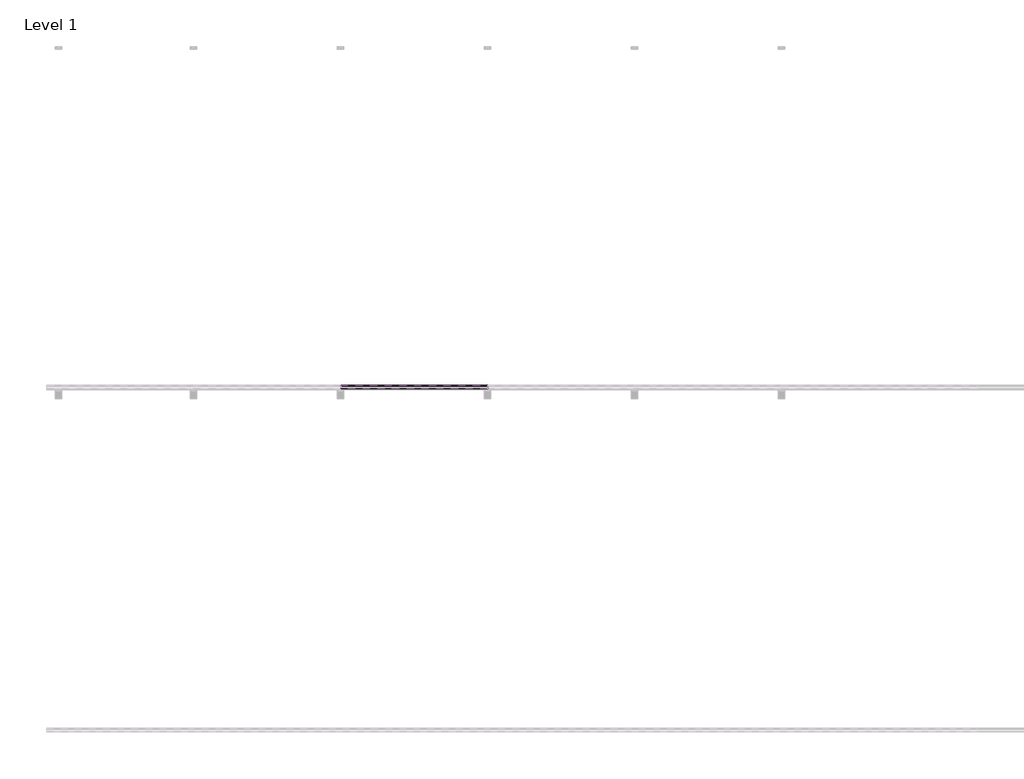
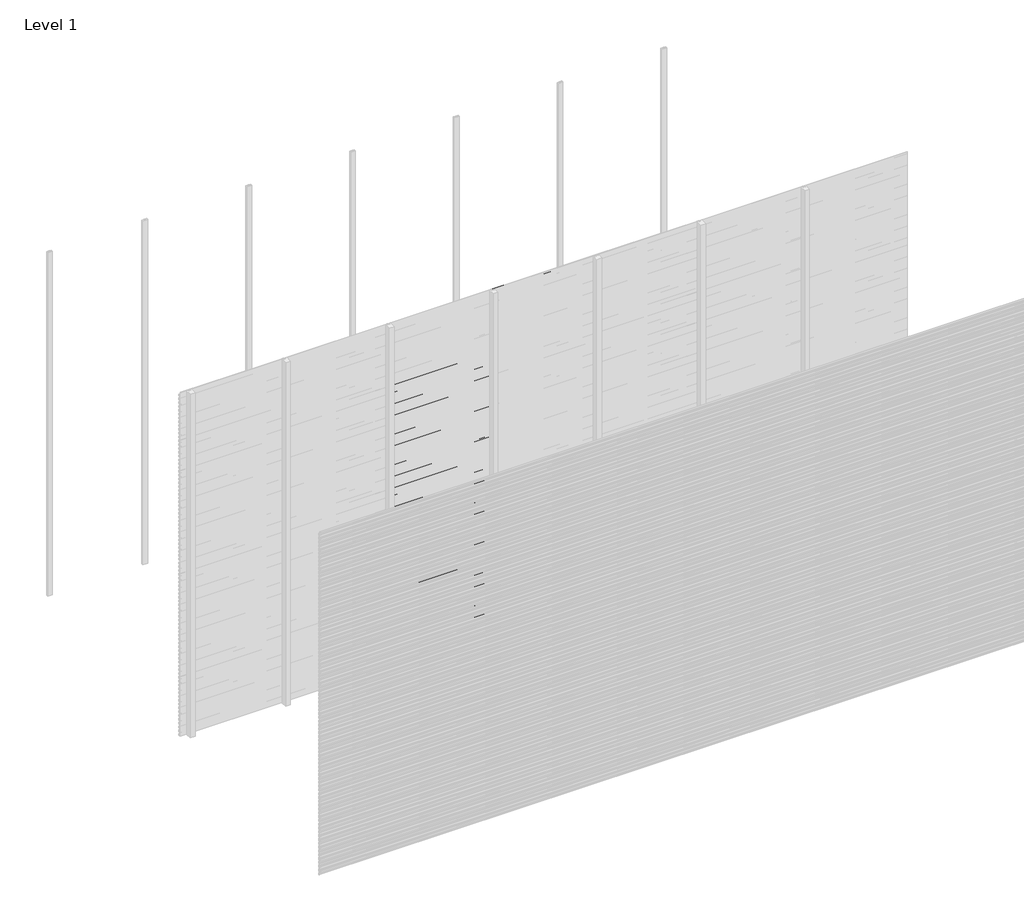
# One storey, part 45 of 96: 77 proxies.
"""IFC4 building model written with IfcOpenShell, lengths in millimetres."""

from ifc_helpers import new_model, si_unit, frame, origin, place, context, project, spatial, polyline, outline, extrude, element, save

model = new_model("IFC4")

# Units and contexts
model_context = context("Model", 3, world=origin())
ifc_project = project(units=[si_unit("LENGTHUNIT", "METRE", prefix="MILLI")], contexts=[model_context])

# Site, building, storey
site = spatial("IfcSite", under=ifc_project)
building = spatial("IfcBuilding", under=site)
storey = spatial("IfcBuildingStorey", under=building, Name="Level 1", Elevation=0.0)

# Proxies
placement = place(None, origin())
element("IfcBuildingElementProxy", 1, Name="Wall Sweeps", at=placement, inside=storey, context=model_context, shape_type="SweptSolid", body=[
    extrude(outline(polyline([(-29977.6, 2505.5655033), (-29977.6, 2491.2779188), (-29982.4114965, 2488.5), (-29982.4114965, 2489.7701706), (-29978.85, 2491.8264016), (-29978.85, 2504.8437382), (-29998.0, 2515.9000799), (-29998.0, 2530.8), (-29996.75, 2530.8), (-29996.75, 2516.6217609), (-29977.6, 2505.5655033)])), frame((1714.2857143, 0.0, 0.0), z_axis=(1.0, 0.0, 0.0), x_axis=(0.0, 1.0, 0.0)), (0.0, 0.0, 1.0), 857.1428571),
])
element("IfcBuildingElementProxy", 2, Name="Wall Sweeps", at=placement, inside=storey, context=model_context, shape_type="SweptSolid", body=[
    extrude(outline(polyline([(-29977.6, 2472.2655033), (-29977.6, 2457.9779188), (-29982.4114965, 2455.2), (-29982.4114965, 2456.4701706), (-29978.85, 2458.5264016), (-29978.85, 2471.5437382), (-29998.0, 2482.6000799), (-29998.0, 2497.5), (-29996.75, 2497.5), (-29996.75, 2483.3217609), (-29977.6, 2472.2655033)])), frame((1714.2857143, 0.0, 0.0), z_axis=(1.0, 0.0, 0.0), x_axis=(0.0, 1.0, 0.0)), (0.0, 0.0, 1.0), 857.1428571),
])
element("IfcBuildingElementProxy", 3, Name="Wall Sweeps", at=placement, inside=storey, context=model_context, shape_type="SweptSolid", body=[
    extrude(outline(polyline([(-29977.6, 2438.9655033), (-29977.6, 2424.6779188), (-29982.4114965, 2421.9), (-29982.4114965, 2423.1701706), (-29978.85, 2425.2264016), (-29978.85, 2438.2437382), (-29998.0, 2449.3000799), (-29998.0, 2464.2), (-29996.75, 2464.2), (-29996.75, 2450.0217609), (-29977.6, 2438.9655033)])), frame((1714.2857143, 0.0, 0.0), z_axis=(1.0, 0.0, 0.0), x_axis=(0.0, 1.0, 0.0)), (0.0, 0.0, 1.0), 857.1428571),
])
element("IfcBuildingElementProxy", 4, Name="Wall Sweeps", at=placement, inside=storey, context=model_context, shape_type="SweptSolid", body=[
    extrude(outline(polyline([(-29977.6, 2405.6655033), (-29977.6, 2391.3779188), (-29982.4114965, 2388.6), (-29982.4114965, 2389.8701706), (-29978.85, 2391.9264016), (-29978.85, 2404.9437382), (-29998.0, 2416.0000799), (-29998.0, 2430.9), (-29996.75, 2430.9), (-29996.75, 2416.7217609), (-29977.6, 2405.6655033)])), frame((1714.2857143, 0.0, 0.0), z_axis=(1.0, 0.0, 0.0), x_axis=(0.0, 1.0, 0.0)), (0.0, 0.0, 1.0), 857.1428571),
])
element("IfcBuildingElementProxy", 5, Name="Wall Sweeps", at=placement, inside=storey, context=model_context, shape_type="SweptSolid", body=[
    extrude(outline(polyline([(-29977.6, 2372.3655033), (-29977.6, 2358.0779188), (-29982.4114965, 2355.3), (-29982.4114965, 2356.5701706), (-29978.85, 2358.6264016), (-29978.85, 2371.6437382), (-29998.0, 2382.7000799), (-29998.0, 2397.6), (-29996.75, 2397.6), (-29996.75, 2383.4217609), (-29977.6, 2372.3655033)])), frame((1714.2857143, 0.0, 0.0), z_axis=(1.0, 0.0, 0.0), x_axis=(0.0, 1.0, 0.0)), (0.0, 0.0, 1.0), 857.1428571),
])
element("IfcBuildingElementProxy", 6, Name="Wall Sweeps", at=placement, inside=storey, context=model_context, shape_type="SweptSolid", body=[
    extrude(outline(polyline([(-29977.6, 2339.0655033), (-29977.6, 2324.7779188), (-29982.4114965, 2322.0), (-29982.4114965, 2323.2701706), (-29978.85, 2325.3264016), (-29978.85, 2338.3437382), (-29998.0, 2349.4000799), (-29998.0, 2364.3), (-29996.75, 2364.3), (-29996.75, 2350.1217609), (-29977.6, 2339.0655033)])), frame((1714.2857143, 0.0, 0.0), z_axis=(1.0, 0.0, 0.0), x_axis=(0.0, 1.0, 0.0)), (0.0, 0.0, 1.0), 857.1428571),
])
element("IfcBuildingElementProxy", 7, Name="Wall Sweeps", at=placement, inside=storey, context=model_context, shape_type="SweptSolid", body=[
    extrude(outline(polyline([(-29977.6, 2305.7655033), (-29977.6, 2291.4779188), (-29982.4114965, 2288.7), (-29982.4114965, 2289.9701706), (-29978.85, 2292.0264016), (-29978.85, 2305.0437382), (-29998.0, 2316.1000799), (-29998.0, 2331.0), (-29996.75, 2331.0), (-29996.75, 2316.8217609), (-29977.6, 2305.7655033)])), frame((1714.2857143, 0.0, 0.0), z_axis=(1.0, 0.0, 0.0), x_axis=(0.0, 1.0, 0.0)), (0.0, 0.0, 1.0), 857.1428571),
])
element("IfcBuildingElementProxy", 8, Name="Wall Sweeps", at=placement, inside=storey, context=model_context, shape_type="SweptSolid", body=[
    extrude(outline(polyline([(-29977.6, 2272.4655033), (-29977.6, 2258.1779188), (-29982.4114965, 2255.4), (-29982.4114965, 2256.6701706), (-29978.85, 2258.7264016), (-29978.85, 2271.7437382), (-29998.0, 2282.8000799), (-29998.0, 2297.7), (-29996.75, 2297.7), (-29996.75, 2283.5217609), (-29977.6, 2272.4655033)])), frame((1714.2857143, 0.0, 0.0), z_axis=(1.0, 0.0, 0.0), x_axis=(0.0, 1.0, 0.0)), (0.0, 0.0, 1.0), 857.1428571),
])
element("IfcBuildingElementProxy", 9, Name="Wall Sweeps", at=placement, inside=storey, context=model_context, shape_type="SweptSolid", body=[
    extrude(outline(polyline([(-29977.6, 2239.1655033), (-29977.6, 2224.8779188), (-29982.4114965, 2222.1), (-29982.4114965, 2223.3701706), (-29978.85, 2225.4264016), (-29978.85, 2238.4437382), (-29998.0, 2249.5000799), (-29998.0, 2264.4), (-29996.75, 2264.4), (-29996.75, 2250.2217609), (-29977.6, 2239.1655033)])), frame((1714.2857143, 0.0, 0.0), z_axis=(1.0, 0.0, 0.0), x_axis=(0.0, 1.0, 0.0)), (0.0, 0.0, 1.0), 857.1428571),
])
element("IfcBuildingElementProxy", 10, Name="Wall Sweeps", at=placement, inside=storey, context=model_context, shape_type="SweptSolid", body=[
    extrude(outline(polyline([(-29977.6, 2205.8655033), (-29977.6, 2191.5779188), (-29982.4114965, 2188.8), (-29982.4114965, 2190.0701706), (-29978.85, 2192.1264016), (-29978.85, 2205.1437382), (-29998.0, 2216.2000799), (-29998.0, 2231.1), (-29996.75, 2231.1), (-29996.75, 2216.9217609), (-29977.6, 2205.8655033)])), frame((1714.2857143, 0.0, 0.0), z_axis=(1.0, 0.0, 0.0), x_axis=(0.0, 1.0, 0.0)), (0.0, 0.0, 1.0), 857.1428571),
])
element("IfcBuildingElementProxy", 11, Name="Wall Sweeps", at=placement, inside=storey, context=model_context, shape_type="SweptSolid", body=[
    extrude(outline(polyline([(-29977.6, 2172.5655033), (-29977.6, 2158.2779188), (-29982.4114965, 2155.5), (-29982.4114965, 2156.7701706), (-29978.85, 2158.8264016), (-29978.85, 2171.8437382), (-29998.0, 2182.9000799), (-29998.0, 2197.8), (-29996.75, 2197.8), (-29996.75, 2183.6217609), (-29977.6, 2172.5655033)])), frame((1714.2857143, 0.0, 0.0), z_axis=(1.0, 0.0, 0.0), x_axis=(0.0, 1.0, 0.0)), (0.0, 0.0, 1.0), 857.1428571),
])
element("IfcBuildingElementProxy", 12, Name="Wall Sweeps", at=placement, inside=storey, context=model_context, shape_type="SweptSolid", body=[
    extrude(outline(polyline([(-29977.6, 2139.2655033), (-29977.6, 2124.9779188), (-29982.4114965, 2122.2), (-29982.4114965, 2123.4701706), (-29978.85, 2125.5264016), (-29978.85, 2138.5437382), (-29998.0, 2149.6000799), (-29998.0, 2164.5), (-29996.75, 2164.5), (-29996.75, 2150.3217609), (-29977.6, 2139.2655033)])), frame((1714.2857143, 0.0, 0.0), z_axis=(1.0, 0.0, 0.0), x_axis=(0.0, 1.0, 0.0)), (0.0, 0.0, 1.0), 857.1428571),
])
element("IfcBuildingElementProxy", 13, Name="Wall Sweeps", at=placement, inside=storey, context=model_context, shape_type="SweptSolid", body=[
    extrude(outline(polyline([(-29977.6, 2105.9655033), (-29977.6, 2091.6779188), (-29982.4114965, 2088.9), (-29982.4114965, 2090.1701706), (-29978.85, 2092.2264016), (-29978.85, 2105.2437382), (-29998.0, 2116.3000799), (-29998.0, 2131.2), (-29996.75, 2131.2), (-29996.75, 2117.0217609), (-29977.6, 2105.9655033)])), frame((1714.2857143, 0.0, 0.0), z_axis=(1.0, 0.0, 0.0), x_axis=(0.0, 1.0, 0.0)), (0.0, 0.0, 1.0), 857.1428571),
])
element("IfcBuildingElementProxy", 14, Name="Wall Sweeps", at=placement, inside=storey, context=model_context, shape_type="SweptSolid", body=[
    extrude(outline(polyline([(-29977.6, 2072.6655033), (-29977.6, 2058.3779188), (-29982.4114965, 2055.6), (-29982.4114965, 2056.8701706), (-29978.85, 2058.9264016), (-29978.85, 2071.9437382), (-29998.0, 2083.0000799), (-29998.0, 2097.9), (-29996.75, 2097.9), (-29996.75, 2083.7217609), (-29977.6, 2072.6655033)])), frame((1714.2857143, 0.0, 0.0), z_axis=(1.0, 0.0, 0.0), x_axis=(0.0, 1.0, 0.0)), (0.0, 0.0, 1.0), 857.1428571),
])
element("IfcBuildingElementProxy", 15, Name="Wall Sweeps", at=placement, inside=storey, context=model_context, shape_type="SweptSolid", body=[
    extrude(outline(polyline([(-29977.6, 2039.3655033), (-29977.6, 2025.0779188), (-29982.4114965, 2022.3), (-29982.4114965, 2023.5701706), (-29978.85, 2025.6264016), (-29978.85, 2038.6437382), (-29998.0, 2049.7000799), (-29998.0, 2064.6), (-29996.75, 2064.6), (-29996.75, 2050.4217609), (-29977.6, 2039.3655033)])), frame((1714.2857143, 0.0, 0.0), z_axis=(1.0, 0.0, 0.0), x_axis=(0.0, 1.0, 0.0)), (0.0, 0.0, 1.0), 857.1428571),
])
element("IfcBuildingElementProxy", 16, Name="Wall Sweeps", at=placement, inside=storey, context=model_context, shape_type="SweptSolid", body=[
    extrude(outline(polyline([(-29977.6, 2006.0655033), (-29977.6, 1991.7779188), (-29982.4114965, 1989.0), (-29982.4114965, 1990.2701706), (-29978.85, 1992.3264016), (-29978.85, 2005.3437382), (-29998.0, 2016.4000799), (-29998.0, 2031.3), (-29996.75, 2031.3), (-29996.75, 2017.1217609), (-29977.6, 2006.0655033)])), frame((1714.2857143, 0.0, 0.0), z_axis=(1.0, 0.0, 0.0), x_axis=(0.0, 1.0, 0.0)), (0.0, 0.0, 1.0), 857.1428571),
])
element("IfcBuildingElementProxy", 17, Name="Wall Sweeps", at=placement, inside=storey, context=model_context, shape_type="SweptSolid", body=[
    extrude(outline(polyline([(-29977.6, 1972.7655033), (-29977.6, 1958.4779188), (-29982.4114965, 1955.7), (-29982.4114965, 1956.9701706), (-29978.85, 1959.0264016), (-29978.85, 1972.0437382), (-29998.0, 1983.1000799), (-29998.0, 1998.0), (-29996.75, 1998.0), (-29996.75, 1983.8217609), (-29977.6, 1972.7655033)])), frame((1714.2857143, 0.0, 0.0), z_axis=(1.0, 0.0, 0.0), x_axis=(0.0, 1.0, 0.0)), (0.0, 0.0, 1.0), 857.1428571),
])
element("IfcBuildingElementProxy", 18, Name="Wall Sweeps", at=placement, inside=storey, context=model_context, shape_type="SweptSolid", body=[
    extrude(outline(polyline([(-29977.6, 1939.4655033), (-29977.6, 1925.1779188), (-29982.4114965, 1922.4), (-29982.4114965, 1923.6701706), (-29978.85, 1925.7264016), (-29978.85, 1938.7437382), (-29998.0, 1949.8000799), (-29998.0, 1964.7), (-29996.75, 1964.7), (-29996.75, 1950.5217609), (-29977.6, 1939.4655033)])), frame((1714.2857143, 0.0, 0.0), z_axis=(1.0, 0.0, 0.0), x_axis=(0.0, 1.0, 0.0)), (0.0, 0.0, 1.0), 857.1428571),
])
element("IfcBuildingElementProxy", 19, Name="Wall Sweeps", at=placement, inside=storey, context=model_context, shape_type="SweptSolid", body=[
    extrude(outline(polyline([(-29977.6, 1906.1655033), (-29977.6, 1891.8779188), (-29982.4114965, 1889.1), (-29982.4114965, 1890.3701706), (-29978.85, 1892.4264016), (-29978.85, 1905.4437382), (-29998.0, 1916.5000799), (-29998.0, 1931.4), (-29996.75, 1931.4), (-29996.75, 1917.2217609), (-29977.6, 1906.1655033)])), frame((1714.2857143, 0.0, 0.0), z_axis=(1.0, 0.0, 0.0), x_axis=(0.0, 1.0, 0.0)), (0.0, 0.0, 1.0), 857.1428571),
])
element("IfcBuildingElementProxy", 20, Name="Wall Sweeps", at=placement, inside=storey, context=model_context, shape_type="SweptSolid", body=[
    extrude(outline(polyline([(-29977.6, 1872.8655033), (-29977.6, 1858.5779188), (-29982.4114965, 1855.8), (-29982.4114965, 1857.0701706), (-29978.85, 1859.1264016), (-29978.85, 1872.1437382), (-29998.0, 1883.2000799), (-29998.0, 1898.1), (-29996.75, 1898.1), (-29996.75, 1883.9217609), (-29977.6, 1872.8655033)])), frame((1714.2857143, 0.0, 0.0), z_axis=(1.0, 0.0, 0.0), x_axis=(0.0, 1.0, 0.0)), (0.0, 0.0, 1.0), 857.1428571),
])
element("IfcBuildingElementProxy", 21, Name="Wall Sweeps", at=placement, inside=storey, context=model_context, shape_type="SweptSolid", body=[
    extrude(outline(polyline([(-29977.6, 1839.5655033), (-29977.6, 1825.2779188), (-29982.4114965, 1822.5), (-29982.4114965, 1823.7701706), (-29978.85, 1825.8264016), (-29978.85, 1838.8437382), (-29998.0, 1849.9000799), (-29998.0, 1864.8), (-29996.75, 1864.8), (-29996.75, 1850.6217609), (-29977.6, 1839.5655033)])), frame((1714.2857143, 0.0, 0.0), z_axis=(1.0, 0.0, 0.0), x_axis=(0.0, 1.0, 0.0)), (0.0, 0.0, 1.0), 857.1428571),
])
element("IfcBuildingElementProxy", 22, Name="Wall Sweeps", at=placement, inside=storey, context=model_context, shape_type="SweptSolid", body=[
    extrude(outline(polyline([(-29977.6, 1806.2655033), (-29977.6, 1791.9779188), (-29982.4114965, 1789.2), (-29982.4114965, 1790.4701706), (-29978.85, 1792.5264016), (-29978.85, 1805.5437382), (-29998.0, 1816.6000799), (-29998.0, 1831.5), (-29996.75, 1831.5), (-29996.75, 1817.3217609), (-29977.6, 1806.2655033)])), frame((1714.2857143, 0.0, 0.0), z_axis=(1.0, 0.0, 0.0), x_axis=(0.0, 1.0, 0.0)), (0.0, 0.0, 1.0), 857.1428571),
])
element("IfcBuildingElementProxy", 23, Name="Wall Sweeps", at=placement, inside=storey, context=model_context, shape_type="SweptSolid", body=[
    extrude(outline(polyline([(-29977.6, 1772.9655033), (-29977.6, 1758.6779188), (-29982.4114965, 1755.9), (-29982.4114965, 1757.1701706), (-29978.85, 1759.2264016), (-29978.85, 1772.2437382), (-29998.0, 1783.3000799), (-29998.0, 1798.2), (-29996.75, 1798.2), (-29996.75, 1784.0217609), (-29977.6, 1772.9655033)])), frame((1714.2857143, 0.0, 0.0), z_axis=(1.0, 0.0, 0.0), x_axis=(0.0, 1.0, 0.0)), (0.0, 0.0, 1.0), 857.1428571),
])
element("IfcBuildingElementProxy", 24, Name="Wall Sweeps", at=placement, inside=storey, context=model_context, shape_type="SweptSolid", body=[
    extrude(outline(polyline([(-29977.6, 1739.6655033), (-29977.6, 1725.3779188), (-29982.4114965, 1722.6), (-29982.4114965, 1723.8701706), (-29978.85, 1725.9264016), (-29978.85, 1738.9437382), (-29998.0, 1750.0000799), (-29998.0, 1764.9), (-29996.75, 1764.9), (-29996.75, 1750.7217609), (-29977.6, 1739.6655033)])), frame((1714.2857143, 0.0, 0.0), z_axis=(1.0, 0.0, 0.0), x_axis=(0.0, 1.0, 0.0)), (0.0, 0.0, 1.0), 857.1428571),
])
element("IfcBuildingElementProxy", 25, Name="Wall Sweeps", at=placement, inside=storey, context=model_context, shape_type="SweptSolid", body=[
    extrude(outline(polyline([(-29977.6, 1706.3655033), (-29977.6, 1692.0779188), (-29982.4114965, 1689.3), (-29982.4114965, 1690.5701706), (-29978.85, 1692.6264016), (-29978.85, 1705.6437382), (-29998.0, 1716.7000799), (-29998.0, 1731.6), (-29996.75, 1731.6), (-29996.75, 1717.4217609), (-29977.6, 1706.3655033)])), frame((1714.2857143, 0.0, 0.0), z_axis=(1.0, 0.0, 0.0), x_axis=(0.0, 1.0, 0.0)), (0.0, 0.0, 1.0), 857.1428571),
])
element("IfcBuildingElementProxy", 26, Name="Wall Sweeps", at=placement, inside=storey, context=model_context, shape_type="SweptSolid", body=[
    extrude(outline(polyline([(-29977.6, 1673.0655033), (-29977.6, 1658.7779188), (-29982.4114965, 1656.0), (-29982.4114965, 1657.2701706), (-29978.85, 1659.3264016), (-29978.85, 1672.3437382), (-29998.0, 1683.4000799), (-29998.0, 1698.3), (-29996.75, 1698.3), (-29996.75, 1684.1217609), (-29977.6, 1673.0655033)])), frame((1714.2857143, 0.0, 0.0), z_axis=(1.0, 0.0, 0.0), x_axis=(0.0, 1.0, 0.0)), (0.0, 0.0, 1.0), 857.1428571),
])
element("IfcBuildingElementProxy", 27, Name="Wall Sweeps", at=placement, inside=storey, context=model_context, shape_type="SweptSolid", body=[
    extrude(outline(polyline([(-29977.6, 1639.7655033), (-29977.6, 1625.4779188), (-29982.4114965, 1622.7), (-29982.4114965, 1623.9701706), (-29978.85, 1626.0264016), (-29978.85, 1639.0437382), (-29998.0, 1650.1000799), (-29998.0, 1665.0), (-29996.75, 1665.0), (-29996.75, 1650.8217609), (-29977.6, 1639.7655033)])), frame((1714.2857143, 0.0, 0.0), z_axis=(1.0, 0.0, 0.0), x_axis=(0.0, 1.0, 0.0)), (0.0, 0.0, 1.0), 857.1428571),
])
element("IfcBuildingElementProxy", 28, Name="Wall Sweeps", at=placement, inside=storey, context=model_context, shape_type="SweptSolid", body=[
    extrude(outline(polyline([(-29977.6, 1606.4655033), (-29977.6, 1592.1779188), (-29982.4114965, 1589.4), (-29982.4114965, 1590.6701706), (-29978.85, 1592.7264016), (-29978.85, 1605.7437382), (-29998.0, 1616.8000799), (-29998.0, 1631.7), (-29996.75, 1631.7), (-29996.75, 1617.5217609), (-29977.6, 1606.4655033)])), frame((1714.2857143, 0.0, 0.0), z_axis=(1.0, 0.0, 0.0), x_axis=(0.0, 1.0, 0.0)), (0.0, 0.0, 1.0), 857.1428571),
])
element("IfcBuildingElementProxy", 29, Name="Wall Sweeps", at=placement, inside=storey, context=model_context, shape_type="SweptSolid", body=[
    extrude(outline(polyline([(-29977.6, 1573.1655033), (-29977.6, 1558.8779188), (-29982.4114965, 1556.1), (-29982.4114965, 1557.3701706), (-29978.85, 1559.4264016), (-29978.85, 1572.4437382), (-29998.0, 1583.5000799), (-29998.0, 1598.4), (-29996.75, 1598.4), (-29996.75, 1584.2217609), (-29977.6, 1573.1655033)])), frame((1714.2857143, 0.0, 0.0), z_axis=(1.0, 0.0, 0.0), x_axis=(0.0, 1.0, 0.0)), (0.0, 0.0, 1.0), 857.1428571),
])
element("IfcBuildingElementProxy", 30, Name="Wall Sweeps", at=placement, inside=storey, context=model_context, shape_type="SweptSolid", body=[
    extrude(outline(polyline([(-29977.6, 1539.8655033), (-29977.6, 1525.5779188), (-29982.4114965, 1522.8), (-29982.4114965, 1524.0701706), (-29978.85, 1526.1264016), (-29978.85, 1539.1437382), (-29998.0, 1550.2000799), (-29998.0, 1565.1), (-29996.75, 1565.1), (-29996.75, 1550.9217609), (-29977.6, 1539.8655033)])), frame((1714.2857143, 0.0, 0.0), z_axis=(1.0, 0.0, 0.0), x_axis=(0.0, 1.0, 0.0)), (0.0, 0.0, 1.0), 857.1428571),
])
element("IfcBuildingElementProxy", 31, Name="Wall Sweeps", at=placement, inside=storey, context=model_context, shape_type="SweptSolid", body=[
    extrude(outline(polyline([(-29977.6, 1506.5655033), (-29977.6, 1492.2779188), (-29982.4114965, 1489.5), (-29982.4114965, 1490.7701706), (-29978.85, 1492.8264016), (-29978.85, 1505.8437382), (-29998.0, 1516.9000799), (-29998.0, 1531.8), (-29996.75, 1531.8), (-29996.75, 1517.6217609), (-29977.6, 1506.5655033)])), frame((1714.2857143, 0.0, 0.0), z_axis=(1.0, 0.0, 0.0), x_axis=(0.0, 1.0, 0.0)), (0.0, 0.0, 1.0), 857.1428571),
])
element("IfcBuildingElementProxy", 32, Name="Wall Sweeps", at=placement, inside=storey, context=model_context, shape_type="SweptSolid", body=[
    extrude(outline(polyline([(-29977.6, 1473.2655033), (-29977.6, 1458.9779188), (-29982.4114965, 1456.2), (-29982.4114965, 1457.4701706), (-29978.85, 1459.5264016), (-29978.85, 1472.5437382), (-29998.0, 1483.6000799), (-29998.0, 1498.5), (-29996.75, 1498.5), (-29996.75, 1484.3217609), (-29977.6, 1473.2655033)])), frame((1714.2857143, 0.0, 0.0), z_axis=(1.0, 0.0, 0.0), x_axis=(0.0, 1.0, 0.0)), (0.0, 0.0, 1.0), 857.1428571),
])
element("IfcBuildingElementProxy", 33, Name="Wall Sweeps", at=placement, inside=storey, context=model_context, shape_type="SweptSolid", body=[
    extrude(outline(polyline([(-29977.6, 1439.9655033), (-29977.6, 1425.6779188), (-29982.4114965, 1422.9), (-29982.4114965, 1424.1701706), (-29978.85, 1426.2264016), (-29978.85, 1439.2437382), (-29998.0, 1450.3000799), (-29998.0, 1465.2), (-29996.75, 1465.2), (-29996.75, 1451.0217609), (-29977.6, 1439.9655033)])), frame((1714.2857143, 0.0, 0.0), z_axis=(1.0, 0.0, 0.0), x_axis=(0.0, 1.0, 0.0)), (0.0, 0.0, 1.0), 857.1428571),
])
element("IfcBuildingElementProxy", 34, Name="Wall Sweeps", at=placement, inside=storey, context=model_context, shape_type="SweptSolid", body=[
    extrude(outline(polyline([(-29977.6, 1406.6655033), (-29977.6, 1392.3779188), (-29982.4114965, 1389.6), (-29982.4114965, 1390.8701706), (-29978.85, 1392.9264016), (-29978.85, 1405.9437382), (-29998.0, 1417.0000799), (-29998.0, 1431.9), (-29996.75, 1431.9), (-29996.75, 1417.7217609), (-29977.6, 1406.6655033)])), frame((1714.2857143, 0.0, 0.0), z_axis=(1.0, 0.0, 0.0), x_axis=(0.0, 1.0, 0.0)), (0.0, 0.0, 1.0), 857.1428571),
])
element("IfcBuildingElementProxy", 35, Name="Wall Sweeps", at=placement, inside=storey, context=model_context, shape_type="SweptSolid", body=[
    extrude(outline(polyline([(-29977.6, 1373.3655033), (-29977.6, 1359.0779188), (-29982.4114965, 1356.3), (-29982.4114965, 1357.5701706), (-29978.85, 1359.6264016), (-29978.85, 1372.6437382), (-29998.0, 1383.7000799), (-29998.0, 1398.6), (-29996.75, 1398.6), (-29996.75, 1384.4217609), (-29977.6, 1373.3655033)])), frame((1714.2857143, 0.0, 0.0), z_axis=(1.0, 0.0, 0.0), x_axis=(0.0, 1.0, 0.0)), (0.0, 0.0, 1.0), 857.1428571),
])
element("IfcBuildingElementProxy", 36, Name="Wall Sweeps", at=placement, inside=storey, context=model_context, shape_type="SweptSolid", body=[
    extrude(outline(polyline([(-29977.6, 1340.0655033), (-29977.6, 1325.7779188), (-29982.4114965, 1323.0), (-29982.4114965, 1324.2701706), (-29978.85, 1326.3264016), (-29978.85, 1339.3437382), (-29998.0, 1350.4000799), (-29998.0, 1365.3), (-29996.75, 1365.3), (-29996.75, 1351.1217609), (-29977.6, 1340.0655033)])), frame((1714.2857143, 0.0, 0.0), z_axis=(1.0, 0.0, 0.0), x_axis=(0.0, 1.0, 0.0)), (0.0, 0.0, 1.0), 857.1428571),
])
element("IfcBuildingElementProxy", 37, Name="Wall Sweeps", at=placement, inside=storey, context=model_context, shape_type="SweptSolid", body=[
    extrude(outline(polyline([(-29977.6, 1306.7655033), (-29977.6, 1292.4779188), (-29982.4114965, 1289.7), (-29982.4114965, 1290.9701706), (-29978.85, 1293.0264016), (-29978.85, 1306.0437382), (-29998.0, 1317.1000799), (-29998.0, 1332.0), (-29996.75, 1332.0), (-29996.75, 1317.8217609), (-29977.6, 1306.7655033)])), frame((1714.2857143, 0.0, 0.0), z_axis=(1.0, 0.0, 0.0), x_axis=(0.0, 1.0, 0.0)), (0.0, 0.0, 1.0), 857.1428571),
])
element("IfcBuildingElementProxy", 38, Name="Wall Sweeps", at=placement, inside=storey, context=model_context, shape_type="SweptSolid", body=[
    extrude(outline(polyline([(-29977.6, 1273.4655033), (-29977.6, 1259.1779188), (-29982.4114965, 1256.4), (-29982.4114965, 1257.6701706), (-29978.85, 1259.7264016), (-29978.85, 1272.7437382), (-29998.0, 1283.8000799), (-29998.0, 1298.7), (-29996.75, 1298.7), (-29996.75, 1284.5217609), (-29977.6, 1273.4655033)])), frame((1714.2857143, 0.0, 0.0), z_axis=(1.0, 0.0, 0.0), x_axis=(0.0, 1.0, 0.0)), (0.0, 0.0, 1.0), 857.1428571),
])
element("IfcBuildingElementProxy", 39, Name="Wall Sweeps", at=placement, inside=storey, context=model_context, shape_type="SweptSolid", body=[
    extrude(outline(polyline([(-29977.6, 1240.1655033), (-29977.6, 1225.8779188), (-29982.4114965, 1223.1), (-29982.4114965, 1224.3701706), (-29978.85, 1226.4264016), (-29978.85, 1239.4437382), (-29998.0, 1250.5000799), (-29998.0, 1265.4), (-29996.75, 1265.4), (-29996.75, 1251.2217609), (-29977.6, 1240.1655033)])), frame((1714.2857143, 0.0, 0.0), z_axis=(1.0, 0.0, 0.0), x_axis=(0.0, 1.0, 0.0)), (0.0, 0.0, 1.0), 857.1428571),
])
element("IfcBuildingElementProxy", 40, Name="Wall Sweeps", at=placement, inside=storey, context=model_context, shape_type="SweptSolid", body=[
    extrude(outline(polyline([(-29977.6, 1206.8655033), (-29977.6, 1192.5779188), (-29982.4114965, 1189.8), (-29982.4114965, 1191.0701706), (-29978.85, 1193.1264016), (-29978.85, 1206.1437382), (-29998.0, 1217.2000799), (-29998.0, 1232.1), (-29996.75, 1232.1), (-29996.75, 1217.9217609), (-29977.6, 1206.8655033)])), frame((1714.2857143, 0.0, 0.0), z_axis=(1.0, 0.0, 0.0), x_axis=(0.0, 1.0, 0.0)), (0.0, 0.0, 1.0), 857.1428571),
])
element("IfcBuildingElementProxy", 41, Name="Wall Sweeps", at=placement, inside=storey, context=model_context, shape_type="SweptSolid", body=[
    extrude(outline(polyline([(-29977.6, 1173.5655033), (-29977.6, 1159.2779188), (-29982.4114965, 1156.5), (-29982.4114965, 1157.7701706), (-29978.85, 1159.8264016), (-29978.85, 1172.8437382), (-29998.0, 1183.9000799), (-29998.0, 1198.8), (-29996.75, 1198.8), (-29996.75, 1184.6217609), (-29977.6, 1173.5655033)])), frame((1714.2857143, 0.0, 0.0), z_axis=(1.0, 0.0, 0.0), x_axis=(0.0, 1.0, 0.0)), (0.0, 0.0, 1.0), 857.1428571),
])
element("IfcBuildingElementProxy", 42, Name="Wall Sweeps", at=placement, inside=storey, context=model_context, shape_type="SweptSolid", body=[
    extrude(outline(polyline([(-29977.6, 1140.2655033), (-29977.6, 1125.9779188), (-29982.4114965, 1123.2), (-29982.4114965, 1124.4701706), (-29978.85, 1126.5264016), (-29978.85, 1139.5437382), (-29998.0, 1150.6000799), (-29998.0, 1165.5), (-29996.75, 1165.5), (-29996.75, 1151.3217609), (-29977.6, 1140.2655033)])), frame((1714.2857143, 0.0, 0.0), z_axis=(1.0, 0.0, 0.0), x_axis=(0.0, 1.0, 0.0)), (0.0, 0.0, 1.0), 857.1428571),
])
element("IfcBuildingElementProxy", 43, Name="Wall Sweeps", at=placement, inside=storey, context=model_context, shape_type="SweptSolid", body=[
    extrude(outline(polyline([(-29977.6, 1106.9655033), (-29977.6, 1092.6779188), (-29982.4114965, 1089.9), (-29982.4114965, 1091.1701706), (-29978.85, 1093.2264016), (-29978.85, 1106.2437382), (-29998.0, 1117.3000799), (-29998.0, 1132.2), (-29996.75, 1132.2), (-29996.75, 1118.0217609), (-29977.6, 1106.9655033)])), frame((1714.2857143, 0.0, 0.0), z_axis=(1.0, 0.0, 0.0), x_axis=(0.0, 1.0, 0.0)), (0.0, 0.0, 1.0), 857.1428571),
])
element("IfcBuildingElementProxy", 44, Name="Wall Sweeps", at=placement, inside=storey, context=model_context, shape_type="SweptSolid", body=[
    extrude(outline(polyline([(-29977.6, 1073.6655033), (-29977.6, 1059.3779188), (-29982.4114965, 1056.6), (-29982.4114965, 1057.8701706), (-29978.85, 1059.9264016), (-29978.85, 1072.9437382), (-29998.0, 1084.0000799), (-29998.0, 1098.9), (-29996.75, 1098.9), (-29996.75, 1084.7217609), (-29977.6, 1073.6655033)])), frame((1714.2857143, 0.0, 0.0), z_axis=(1.0, 0.0, 0.0), x_axis=(0.0, 1.0, 0.0)), (0.0, 0.0, 1.0), 857.1428571),
])
element("IfcBuildingElementProxy", 45, Name="Wall Sweeps", at=placement, inside=storey, context=model_context, shape_type="SweptSolid", body=[
    extrude(outline(polyline([(-29977.6, 1040.3655033), (-29977.6, 1026.0779188), (-29982.4114965, 1023.3), (-29982.4114965, 1024.5701706), (-29978.85, 1026.6264016), (-29978.85, 1039.6437382), (-29998.0, 1050.7000799), (-29998.0, 1065.6), (-29996.75, 1065.6), (-29996.75, 1051.4217609), (-29977.6, 1040.3655033)])), frame((1714.2857143, 0.0, 0.0), z_axis=(1.0, 0.0, 0.0), x_axis=(0.0, 1.0, 0.0)), (0.0, 0.0, 1.0), 857.1428571),
])
element("IfcBuildingElementProxy", 46, Name="Wall Sweeps", at=placement, inside=storey, context=model_context, shape_type="SweptSolid", body=[
    extrude(outline(polyline([(-29977.6, 1007.0655033), (-29977.6, 992.7779188), (-29982.4114965, 990.0), (-29982.4114965, 991.2701706), (-29978.85, 993.3264016), (-29978.85, 1006.3437382), (-29998.0, 1017.4000799), (-29998.0, 1032.3), (-29996.75, 1032.3), (-29996.75, 1018.1217609), (-29977.6, 1007.0655033)])), frame((1714.2857143, 0.0, 0.0), z_axis=(1.0, 0.0, 0.0), x_axis=(0.0, 1.0, 0.0)), (0.0, 0.0, 1.0), 857.1428571),
])
element("IfcBuildingElementProxy", 47, Name="Wall Sweeps", at=placement, inside=storey, context=model_context, shape_type="SweptSolid", body=[
    extrude(outline(polyline([(-29977.6, 973.7655033), (-29977.6, 959.4779188), (-29982.4114965, 956.7), (-29982.4114965, 957.9701706), (-29978.85, 960.0264016), (-29978.85, 973.0437382), (-29998.0, 984.1000799), (-29998.0, 999.0), (-29996.75, 999.0), (-29996.75, 984.8217609), (-29977.6, 973.7655033)])), frame((1714.2857143, 0.0, 0.0), z_axis=(1.0, 0.0, 0.0), x_axis=(0.0, 1.0, 0.0)), (0.0, 0.0, 1.0), 857.1428571),
])
element("IfcBuildingElementProxy", 48, Name="Wall Sweeps", at=placement, inside=storey, context=model_context, shape_type="SweptSolid", body=[
    extrude(outline(polyline([(-29977.6, 940.4655033), (-29977.6, 926.1779188), (-29982.4114965, 923.4), (-29982.4114965, 924.6701706), (-29978.85, 926.7264016), (-29978.85, 939.7437382), (-29998.0, 950.8000799), (-29998.0, 965.7), (-29996.75, 965.7), (-29996.75, 951.5217609), (-29977.6, 940.4655033)])), frame((1714.2857143, 0.0, 0.0), z_axis=(1.0, 0.0, 0.0), x_axis=(0.0, 1.0, 0.0)), (0.0, 0.0, 1.0), 857.1428571),
])
element("IfcBuildingElementProxy", 49, Name="Wall Sweeps", at=placement, inside=storey, context=model_context, shape_type="SweptSolid", body=[
    extrude(outline(polyline([(-29977.6, 907.1655033), (-29977.6, 892.8779188), (-29982.4114965, 890.1), (-29982.4114965, 891.3701706), (-29978.85, 893.4264016), (-29978.85, 906.4437382), (-29998.0, 917.5000799), (-29998.0, 932.4), (-29996.75, 932.4), (-29996.75, 918.2217609), (-29977.6, 907.1655033)])), frame((1714.2857143, 0.0, 0.0), z_axis=(1.0, 0.0, 0.0), x_axis=(0.0, 1.0, 0.0)), (0.0, 0.0, 1.0), 857.1428571),
])
element("IfcBuildingElementProxy", 50, Name="Wall Sweeps", at=placement, inside=storey, context=model_context, shape_type="SweptSolid", body=[
    extrude(outline(polyline([(-29977.6, 873.8655033), (-29977.6, 859.5779188), (-29982.4114965, 856.8), (-29982.4114965, 858.0701706), (-29978.85, 860.1264016), (-29978.85, 873.1437382), (-29998.0, 884.2000799), (-29998.0, 899.1), (-29996.75, 899.1), (-29996.75, 884.9217609), (-29977.6, 873.8655033)])), frame((1714.2857143, 0.0, 0.0), z_axis=(1.0, 0.0, 0.0), x_axis=(0.0, 1.0, 0.0)), (0.0, 0.0, 1.0), 857.1428571),
])
element("IfcBuildingElementProxy", 51, Name="Wall Sweeps", at=placement, inside=storey, context=model_context, shape_type="SweptSolid", body=[
    extrude(outline(polyline([(-29977.6, 840.5655033), (-29977.6, 826.2779188), (-29982.4114965, 823.5), (-29982.4114965, 824.7701706), (-29978.85, 826.8264016), (-29978.85, 839.8437382), (-29998.0, 850.9000799), (-29998.0, 865.8), (-29996.75, 865.8), (-29996.75, 851.6217609), (-29977.6, 840.5655033)])), frame((1714.2857143, 0.0, 0.0), z_axis=(1.0, 0.0, 0.0), x_axis=(0.0, 1.0, 0.0)), (0.0, 0.0, 1.0), 857.1428571),
])
element("IfcBuildingElementProxy", 52, Name="Wall Sweeps", at=placement, inside=storey, context=model_context, shape_type="SweptSolid", body=[
    extrude(outline(polyline([(-29977.6, 807.2655033), (-29977.6, 792.9779188), (-29982.4114965, 790.2), (-29982.4114965, 791.4701706), (-29978.85, 793.5264016), (-29978.85, 806.5437382), (-29998.0, 817.6000799), (-29998.0, 832.5), (-29996.75, 832.5), (-29996.75, 818.3217609), (-29977.6, 807.2655033)])), frame((1714.2857143, 0.0, 0.0), z_axis=(1.0, 0.0, 0.0), x_axis=(0.0, 1.0, 0.0)), (0.0, 0.0, 1.0), 857.1428571),
])
element("IfcBuildingElementProxy", 53, Name="Wall Sweeps", at=placement, inside=storey, context=model_context, shape_type="SweptSolid", body=[
    extrude(outline(polyline([(-29977.6, 773.9655033), (-29977.6, 759.6779188), (-29982.4114965, 756.9), (-29982.4114965, 758.1701706), (-29978.85, 760.2264016), (-29978.85, 773.2437382), (-29998.0, 784.3000799), (-29998.0, 799.2), (-29996.75, 799.2), (-29996.75, 785.0217609), (-29977.6, 773.9655033)])), frame((1714.2857143, 0.0, 0.0), z_axis=(1.0, 0.0, 0.0), x_axis=(0.0, 1.0, 0.0)), (0.0, 0.0, 1.0), 857.1428571),
])
element("IfcBuildingElementProxy", 54, Name="Wall Sweeps", at=placement, inside=storey, context=model_context, shape_type="SweptSolid", body=[
    extrude(outline(polyline([(-29977.6, 740.6655033), (-29977.6, 726.3779188), (-29982.4114965, 723.6), (-29982.4114965, 724.8701706), (-29978.85, 726.9264016), (-29978.85, 739.9437382), (-29998.0, 751.0000799), (-29998.0, 765.9), (-29996.75, 765.9), (-29996.75, 751.7217609), (-29977.6, 740.6655033)])), frame((1714.2857143, 0.0, 0.0), z_axis=(1.0, 0.0, 0.0), x_axis=(0.0, 1.0, 0.0)), (0.0, 0.0, 1.0), 857.1428571),
])
element("IfcBuildingElementProxy", 55, Name="Wall Sweeps", at=placement, inside=storey, context=model_context, shape_type="SweptSolid", body=[
    extrude(outline(polyline([(-29977.6, 707.3655033), (-29977.6, 693.0779188), (-29982.4114965, 690.3), (-29982.4114965, 691.5701706), (-29978.85, 693.6264016), (-29978.85, 706.6437382), (-29998.0, 717.7000799), (-29998.0, 732.6), (-29996.75, 732.6), (-29996.75, 718.4217609), (-29977.6, 707.3655033)])), frame((1714.2857143, 0.0, 0.0), z_axis=(1.0, 0.0, 0.0), x_axis=(0.0, 1.0, 0.0)), (0.0, 0.0, 1.0), 857.1428571),
])
element("IfcBuildingElementProxy", 56, Name="Wall Sweeps", at=placement, inside=storey, context=model_context, shape_type="SweptSolid", body=[
    extrude(outline(polyline([(-29977.6, 674.0655033), (-29977.6, 659.7779188), (-29982.4114965, 657.0), (-29982.4114965, 658.2701706), (-29978.85, 660.3264016), (-29978.85, 673.3437382), (-29998.0, 684.4000799), (-29998.0, 699.3), (-29996.75, 699.3), (-29996.75, 685.1217609), (-29977.6, 674.0655033)])), frame((1714.2857143, 0.0, 0.0), z_axis=(1.0, 0.0, 0.0), x_axis=(0.0, 1.0, 0.0)), (0.0, 0.0, 1.0), 857.1428571),
])
element("IfcBuildingElementProxy", 57, Name="Wall Sweeps", at=placement, inside=storey, context=model_context, shape_type="SweptSolid", body=[
    extrude(outline(polyline([(-29977.6, 640.7655033), (-29977.6, 626.4779188), (-29982.4114965, 623.7), (-29982.4114965, 624.9701706), (-29978.85, 627.0264016), (-29978.85, 640.0437382), (-29998.0, 651.1000799), (-29998.0, 666.0), (-29996.75, 666.0), (-29996.75, 651.8217609), (-29977.6, 640.7655033)])), frame((1714.2857143, 0.0, 0.0), z_axis=(1.0, 0.0, 0.0), x_axis=(0.0, 1.0, 0.0)), (0.0, 0.0, 1.0), 857.1428571),
])
element("IfcBuildingElementProxy", 58, Name="Wall Sweeps", at=placement, inside=storey, context=model_context, shape_type="SweptSolid", body=[
    extrude(outline(polyline([(-29977.6, 607.4655033), (-29977.6, 593.1779188), (-29982.4114965, 590.4), (-29982.4114965, 591.6701706), (-29978.85, 593.7264016), (-29978.85, 606.7437382), (-29998.0, 617.8000799), (-29998.0, 632.7), (-29996.75, 632.7), (-29996.75, 618.5217609), (-29977.6, 607.4655033)])), frame((1714.2857143, 0.0, 0.0), z_axis=(1.0, 0.0, 0.0), x_axis=(0.0, 1.0, 0.0)), (0.0, 0.0, 1.0), 857.1428571),
])
element("IfcBuildingElementProxy", 59, Name="Wall Sweeps", at=placement, inside=storey, context=model_context, shape_type="SweptSolid", body=[
    extrude(outline(polyline([(-29977.6, 574.1655033), (-29977.6, 559.8779188), (-29982.4114965, 557.1), (-29982.4114965, 558.3701706), (-29978.85, 560.4264016), (-29978.85, 573.4437382), (-29998.0, 584.5000799), (-29998.0, 599.4), (-29996.75, 599.4), (-29996.75, 585.2217609), (-29977.6, 574.1655033)])), frame((1714.2857143, 0.0, 0.0), z_axis=(1.0, 0.0, 0.0), x_axis=(0.0, 1.0, 0.0)), (0.0, 0.0, 1.0), 857.1428571),
])
element("IfcBuildingElementProxy", 60, Name="Wall Sweeps", at=placement, inside=storey, context=model_context, shape_type="SweptSolid", body=[
    extrude(outline(polyline([(-29977.6, 540.8655033), (-29977.6, 526.5779188), (-29982.4114965, 523.8), (-29982.4114965, 525.0701706), (-29978.85, 527.1264016), (-29978.85, 540.1437382), (-29998.0, 551.2000799), (-29998.0, 566.1), (-29996.75, 566.1), (-29996.75, 551.9217609), (-29977.6, 540.8655033)])), frame((1714.2857143, 0.0, 0.0), z_axis=(1.0, 0.0, 0.0), x_axis=(0.0, 1.0, 0.0)), (0.0, 0.0, 1.0), 857.1428571),
])
element("IfcBuildingElementProxy", 61, Name="Wall Sweeps", at=placement, inside=storey, context=model_context, shape_type="SweptSolid", body=[
    extrude(outline(polyline([(-29977.6, 507.5655033), (-29977.6, 493.2779188), (-29982.4114965, 490.5), (-29982.4114965, 491.7701706), (-29978.85, 493.8264016), (-29978.85, 506.8437382), (-29998.0, 517.9000799), (-29998.0, 532.8), (-29996.75, 532.8), (-29996.75, 518.6217609), (-29977.6, 507.5655033)])), frame((1714.2857143, 0.0, 0.0), z_axis=(1.0, 0.0, 0.0), x_axis=(0.0, 1.0, 0.0)), (0.0, 0.0, 1.0), 857.1428571),
])
element("IfcBuildingElementProxy", 62, Name="Wall Sweeps", at=placement, inside=storey, context=model_context, shape_type="SweptSolid", body=[
    extrude(outline(polyline([(-29977.6, 474.2655033), (-29977.6, 459.9779188), (-29982.4114965, 457.2), (-29982.4114965, 458.4701706), (-29978.85, 460.5264016), (-29978.85, 473.5437382), (-29998.0, 484.6000799), (-29998.0, 499.5), (-29996.75, 499.5), (-29996.75, 485.3217609), (-29977.6, 474.2655033)])), frame((1714.2857143, 0.0, 0.0), z_axis=(1.0, 0.0, 0.0), x_axis=(0.0, 1.0, 0.0)), (0.0, 0.0, 1.0), 857.1428571),
])
element("IfcBuildingElementProxy", 63, Name="Wall Sweeps", at=placement, inside=storey, context=model_context, shape_type="SweptSolid", body=[
    extrude(outline(polyline([(-29977.6, 440.9655033), (-29977.6, 426.6779188), (-29982.4114965, 423.9), (-29982.4114965, 425.1701706), (-29978.85, 427.2264016), (-29978.85, 440.2437382), (-29998.0, 451.3000799), (-29998.0, 466.2), (-29996.75, 466.2), (-29996.75, 452.0217609), (-29977.6, 440.9655033)])), frame((1714.2857143, 0.0, 0.0), z_axis=(1.0, 0.0, 0.0), x_axis=(0.0, 1.0, 0.0)), (0.0, 0.0, 1.0), 857.1428571),
])
element("IfcBuildingElementProxy", 64, Name="Wall Sweeps", at=placement, inside=storey, context=model_context, shape_type="SweptSolid", body=[
    extrude(outline(polyline([(-29977.6, 407.6655033), (-29977.6, 393.3779188), (-29982.4114965, 390.6), (-29982.4114965, 391.8701706), (-29978.85, 393.9264016), (-29978.85, 406.9437382), (-29998.0, 418.0000799), (-29998.0, 432.9), (-29996.75, 432.9), (-29996.75, 418.7217609), (-29977.6, 407.6655033)])), frame((1714.2857143, 0.0, 0.0), z_axis=(1.0, 0.0, 0.0), x_axis=(0.0, 1.0, 0.0)), (0.0, 0.0, 1.0), 857.1428571),
])
element("IfcBuildingElementProxy", 65, Name="Wall Sweeps", at=placement, inside=storey, context=model_context, shape_type="SweptSolid", body=[
    extrude(outline(polyline([(-29977.6, 374.3655033), (-29977.6, 360.0779188), (-29982.4114965, 357.3), (-29982.4114965, 358.5701706), (-29978.85, 360.6264016), (-29978.85, 373.6437382), (-29998.0, 384.7000799), (-29998.0, 399.6), (-29996.75, 399.6), (-29996.75, 385.4217609), (-29977.6, 374.3655033)])), frame((1714.2857143, 0.0, 0.0), z_axis=(1.0, 0.0, 0.0), x_axis=(0.0, 1.0, 0.0)), (0.0, 0.0, 1.0), 857.1428571),
])
element("IfcBuildingElementProxy", 66, Name="Wall Sweeps", at=placement, inside=storey, context=model_context, shape_type="SweptSolid", body=[
    extrude(outline(polyline([(-29977.6, 341.0655033), (-29977.6, 326.7779188), (-29982.4114965, 324.0), (-29982.4114965, 325.2701706), (-29978.85, 327.3264016), (-29978.85, 340.3437382), (-29998.0, 351.4000799), (-29998.0, 366.3), (-29996.75, 366.3), (-29996.75, 352.1217609), (-29977.6, 341.0655033)])), frame((1714.2857143, 0.0, 0.0), z_axis=(1.0, 0.0, 0.0), x_axis=(0.0, 1.0, 0.0)), (0.0, 0.0, 1.0), 857.1428571),
])
element("IfcBuildingElementProxy", 67, Name="Wall Sweeps", at=placement, inside=storey, context=model_context, shape_type="SweptSolid", body=[
    extrude(outline(polyline([(-29977.6, 307.7655033), (-29977.6, 293.4779188), (-29982.4114965, 290.7), (-29982.4114965, 291.9701706), (-29978.85, 294.0264016), (-29978.85, 307.0437382), (-29998.0, 318.1000799), (-29998.0, 333.0), (-29996.75, 333.0), (-29996.75, 318.8217609), (-29977.6, 307.7655033)])), frame((1714.2857143, 0.0, 0.0), z_axis=(1.0, 0.0, 0.0), x_axis=(0.0, 1.0, 0.0)), (0.0, 0.0, 1.0), 857.1428571),
])
element("IfcBuildingElementProxy", 68, Name="Wall Sweeps", at=placement, inside=storey, context=model_context, shape_type="SweptSolid", body=[
    extrude(outline(polyline([(-29977.6, 274.4655033), (-29977.6, 260.1779188), (-29982.4114965, 257.4), (-29982.4114965, 258.6701706), (-29978.85, 260.7264016), (-29978.85, 273.7437382), (-29998.0, 284.8000799), (-29998.0, 299.7), (-29996.75, 299.7), (-29996.75, 285.5217609), (-29977.6, 274.4655033)])), frame((1714.2857143, 0.0, 0.0), z_axis=(1.0, 0.0, 0.0), x_axis=(0.0, 1.0, 0.0)), (0.0, 0.0, 1.0), 857.1428571),
])
element("IfcBuildingElementProxy", 69, Name="Wall Sweeps", at=placement, inside=storey, context=model_context, shape_type="SweptSolid", body=[
    extrude(outline(polyline([(-29977.6, 241.1655033), (-29977.6, 226.8779188), (-29982.4114965, 224.1), (-29982.4114965, 225.3701706), (-29978.85, 227.4264016), (-29978.85, 240.4437382), (-29998.0, 251.5000799), (-29998.0, 266.4), (-29996.75, 266.4), (-29996.75, 252.2217609), (-29977.6, 241.1655033)])), frame((1714.2857143, 0.0, 0.0), z_axis=(1.0, 0.0, 0.0), x_axis=(0.0, 1.0, 0.0)), (0.0, 0.0, 1.0), 857.1428571),
])
element("IfcBuildingElementProxy", 70, Name="Wall Sweeps", at=placement, inside=storey, context=model_context, shape_type="SweptSolid", body=[
    extrude(outline(polyline([(-29977.6, 207.8655033), (-29977.6, 193.5779188), (-29982.4114965, 190.8), (-29982.4114965, 192.0701706), (-29978.85, 194.1264016), (-29978.85, 207.1437382), (-29998.0, 218.2000799), (-29998.0, 233.1), (-29996.75, 233.1), (-29996.75, 218.9217609), (-29977.6, 207.8655033)])), frame((1714.2857143, 0.0, 0.0), z_axis=(1.0, 0.0, 0.0), x_axis=(0.0, 1.0, 0.0)), (0.0, 0.0, 1.0), 857.1428571),
])
element("IfcBuildingElementProxy", 71, Name="Wall Sweeps", at=placement, inside=storey, context=model_context, shape_type="SweptSolid", body=[
    extrude(outline(polyline([(-29977.6, 174.5655033), (-29977.6, 160.2779188), (-29982.4114965, 157.5), (-29982.4114965, 158.7701706), (-29978.85, 160.8264016), (-29978.85, 173.8437382), (-29998.0, 184.9000799), (-29998.0, 199.8), (-29996.75, 199.8), (-29996.75, 185.6217609), (-29977.6, 174.5655033)])), frame((1714.2857143, 0.0, 0.0), z_axis=(1.0, 0.0, 0.0), x_axis=(0.0, 1.0, 0.0)), (0.0, 0.0, 1.0), 857.1428571),
])
element("IfcBuildingElementProxy", 72, Name="Wall Sweeps", at=placement, inside=storey, context=model_context, shape_type="SweptSolid", body=[
    extrude(outline(polyline([(-29977.6, 141.2655033), (-29977.6, 126.9779188), (-29982.4114965, 124.2), (-29982.4114965, 125.4701706), (-29978.85, 127.5264016), (-29978.85, 140.5437382), (-29998.0, 151.6000799), (-29998.0, 166.5), (-29996.75, 166.5), (-29996.75, 152.3217609), (-29977.6, 141.2655033)])), frame((1714.2857143, 0.0, 0.0), z_axis=(1.0, 0.0, 0.0), x_axis=(0.0, 1.0, 0.0)), (0.0, 0.0, 1.0), 857.1428571),
])
element("IfcBuildingElementProxy", 73, Name="Wall Sweeps", at=placement, inside=storey, context=model_context, shape_type="SweptSolid", body=[
    extrude(outline(polyline([(-29977.6, 107.9655033), (-29977.6, 93.6779188), (-29982.4114965, 90.9), (-29982.4114965, 92.1701706), (-29978.85, 94.2264016), (-29978.85, 107.2437382), (-29998.0, 118.3000799), (-29998.0, 133.2), (-29996.75, 133.2), (-29996.75, 119.0217609), (-29977.6, 107.9655033)])), frame((1714.2857143, 0.0, 0.0), z_axis=(1.0, 0.0, 0.0), x_axis=(0.0, 1.0, 0.0)), (0.0, 0.0, 1.0), 857.1428571),
])
element("IfcBuildingElementProxy", 74, Name="Wall Sweeps", at=placement, inside=storey, context=model_context, shape_type="SweptSolid", body=[
    extrude(outline(polyline([(-29977.6, 74.6655033), (-29977.6, 60.3779188), (-29982.4114965, 57.6), (-29982.4114965, 58.8701706), (-29978.85, 60.9264016), (-29978.85, 73.9437382), (-29998.0, 85.0000799), (-29998.0, 99.9), (-29996.75, 99.9), (-29996.75, 85.7217609), (-29977.6, 74.6655033)])), frame((1714.2857143, 0.0, 0.0), z_axis=(1.0, 0.0, 0.0), x_axis=(0.0, 1.0, 0.0)), (0.0, 0.0, 1.0), 857.1428571),
])
element("IfcBuildingElementProxy", 75, Name="Wall Sweeps", at=placement, inside=storey, context=model_context, shape_type="SweptSolid", body=[
    extrude(outline(polyline([(-29977.6, 41.3655033), (-29977.6, 27.0779188), (-29982.4114965, 24.3), (-29982.4114965, 25.5701706), (-29978.85, 27.6264016), (-29978.85, 40.6437382), (-29998.0, 51.7000799), (-29998.0, 66.6), (-29996.75, 66.6), (-29996.75, 52.4217609), (-29977.6, 41.3655033)])), frame((1714.2857143, 0.0, 0.0), z_axis=(1.0, 0.0, 0.0), x_axis=(0.0, 1.0, 0.0)), (0.0, 0.0, 1.0), 857.1428571),
])
element("IfcBuildingElementProxy", 76, Name="Wall Sweeps", at=placement, inside=storey, context=model_context, shape_type="SweptSolid", body=[
    extrude(outline(polyline([(-29977.6, 8.0655033), (-29977.6, -6.2220812), (-29982.4114965, -9.0), (-29982.4114965, -7.7298294), (-29978.85, -5.6735984), (-29978.85, 7.3437382), (-29998.0, 18.4000799), (-29998.0, 33.3), (-29996.75, 33.3), (-29996.75, 19.1217609), (-29977.6, 8.0655033)])), frame((1714.2857143, 0.0, 0.0), z_axis=(1.0, 0.0, 0.0), x_axis=(0.0, 1.0, 0.0)), (0.0, 0.0, 1.0), 857.1428571),
])
element("IfcBuildingElementProxy", 77, Name="Wall Sweeps", at=placement, inside=storey, context=model_context, shape_type="SweptSolid", body=[
    extrude(outline(polyline([(-29977.6, 2971.7655033), (-29977.6, 2957.4779188), (-29982.4114965, 2954.7), (-29982.4114965, 2955.9701706), (-29978.85, 2958.0264016), (-29978.85, 2971.0437382), (-29998.0, 2982.1000799), (-29998.0, 2997.0), (-29996.75, 2997.0), (-29996.75, 2982.8217609), (-29977.6, 2971.7655033)])), frame((2571.4285714, 0.0, 0.0), z_axis=(1.0, 0.0, 0.0), x_axis=(0.0, 1.0, 0.0)), (0.0, 0.0, 1.0), 857.1428571),
])

save(model, "model.ifc")
